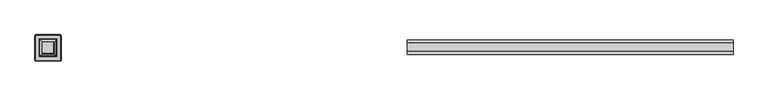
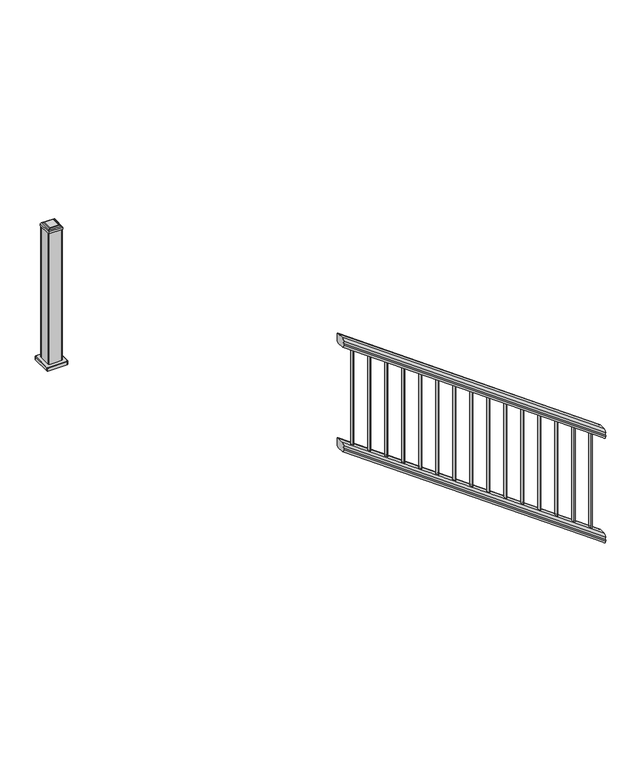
"""IFC4 building model written with IfcOpenShell, lengths in millimetres: railing geometry, NewTechWood - Westminister Gray."""

from ifc_helpers import new_model, si_unit, point, frame, frame_2d, origin, place, context, project, spatial, polyline, circle_curve, ellipse_curve, trimmed, segment, composite_curve, outline, extrude, faceted_brep, source, transform, mapped, element, save
from ifc_brep_helpers import plane_surface, cylinder_surface, revolved_surface, advanced_brep


def railing_3b4f4b14(model_context):
    return source(origin(), model_context, "Body", "SolidModel", [
        advanced_brep(
        [(-12132.4290808, 8279.6469817, 1489.4019141), (-12132.4290808, 8298.8469817, 1489.4019141), (-12132.4290808, 8298.8469817, 785.3019141), (-12132.4290808, 8279.6469817, 785.3019141)],
        [
            (0, 1, ellipse_curve(frame((-12132.4290808, 8289.2469817, 1489.4019141), z_axis=(0.5837829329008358, 0.0, 0.8119097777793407), x_axis=(-0.8119097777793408, 0.0, 0.5837829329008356)), 11.8239739, 9.6)),
            (1, 0, ellipse_curve(frame((-12132.4290808, 8289.2469817, 1489.4019141), z_axis=(0.5837829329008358, 0.0, 0.8119097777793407), x_axis=(-0.8119097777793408, 0.0, 0.5837829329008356)), 11.8239739, 9.6)),
            (2, 3, ellipse_curve(frame((-12132.4290808, 8289.2469817, 785.3019141), z_axis=(-0.5837829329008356, 0.0, -0.8119097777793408), x_axis=(-0.8119097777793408, 0.0, 0.5837829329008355)), 11.8239739, 9.6)),
            (3, 2, ellipse_curve(frame((-12132.4290808, 8289.2469817, 785.3019141), z_axis=(-0.5837829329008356, 0.0, -0.8119097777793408), x_axis=(-0.8119097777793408, 0.0, 0.5837829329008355)), 11.8239739, 9.6)),
            (1, 2),
            (3, 0),
        ],
        [
            plane_surface(frame((-13397.671938, 8539.2469817, 2399.142388), z_axis=(0.5837829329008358, 0.0, 0.8119097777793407), x_axis=(0.0, -1.0, 0.0))),
            plane_surface(frame((-11568.671938, 8539.2469817, 379.9467782), z_axis=(-0.5837829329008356, 0.0, -0.8119097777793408), x_axis=(0.0, -1.0, 0.0))),
            cylinder_surface(frame((-12132.4290808, 8289.2469817, 882.4945831), z_axis=(0.0, 0.0, 1.0), x_axis=(0.0, 1.0, 0.0)), 9.6),
        ],
        [
            (0, [[1, 2]]),
            (1, [[3, 4]]),
            (2, [[-2, 5, -4, 6]]),
            (2, [[-3, -5, -1, -6]]),
        ],
    ),
        advanced_brep(
        [(-12249.3433665, 8279.6469817, 1573.4661371), (-12249.3433665, 8298.8469817, 1573.4661371), (-12249.3433665, 8298.8469817, 869.3661371), (-12249.3433665, 8279.6469817, 869.3661371)],
        [
            (0, 1, ellipse_curve(frame((-12249.3433665, 8289.2469817, 1573.4661371), z_axis=(0.5837829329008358, 0.0, 0.8119097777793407), x_axis=(-0.8119097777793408, 0.0, 0.5837829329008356)), 11.8239739, 9.6)),
            (1, 0, ellipse_curve(frame((-12249.3433665, 8289.2469817, 1573.4661371), z_axis=(0.5837829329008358, 0.0, 0.8119097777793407), x_axis=(-0.8119097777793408, 0.0, 0.5837829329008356)), 11.8239739, 9.6)),
            (2, 3, ellipse_curve(frame((-12249.3433665, 8289.2469817, 869.3661371), z_axis=(-0.5837829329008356, 0.0, -0.8119097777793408), x_axis=(-0.8119097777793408, 0.0, 0.5837829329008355)), 11.8239739, 9.6)),
            (3, 2, ellipse_curve(frame((-12249.3433665, 8289.2469817, 869.3661371), z_axis=(-0.5837829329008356, 0.0, -0.8119097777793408), x_axis=(-0.8119097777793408, 0.0, 0.5837829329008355)), 11.8239739, 9.6)),
            (1, 2),
            (3, 0),
        ],
        [
            plane_surface(frame((-13397.671938, 8539.2469817, 2399.142388), z_axis=(0.5837829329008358, 0.0, 0.8119097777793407), x_axis=(0.0, -1.0, 0.0))),
            plane_surface(frame((-11568.671938, 8539.2469817, 379.9467782), z_axis=(-0.5837829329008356, 0.0, -0.8119097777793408), x_axis=(0.0, -1.0, 0.0))),
            cylinder_surface(frame((-12249.3433665, 8289.2469817, 882.4945831), z_axis=(0.0, 0.0, 1.0), x_axis=(0.0, 1.0, 0.0)), 9.6),
        ],
        [
            (0, [[1, 2]]),
            (1, [[3, 4]]),
            (2, [[-2, 5, -4, 6]]),
            (2, [[-3, -5, -1, -6]]),
        ],
    ),
        advanced_brep(
        [(-12366.2576522, 8279.6469817, 1657.5303601), (-12366.2576522, 8298.8469817, 1657.5303601), (-12366.2576522, 8298.8469817, 953.4303601), (-12366.2576522, 8279.6469817, 953.4303601)],
        [
            (0, 1, ellipse_curve(frame((-12366.2576522, 8289.2469817, 1657.5303601), z_axis=(0.5837829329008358, 0.0, 0.8119097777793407), x_axis=(-0.8119097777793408, 0.0, 0.5837829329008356)), 11.8239739, 9.6)),
            (1, 0, ellipse_curve(frame((-12366.2576522, 8289.2469817, 1657.5303601), z_axis=(0.5837829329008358, 0.0, 0.8119097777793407), x_axis=(-0.8119097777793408, 0.0, 0.5837829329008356)), 11.8239739, 9.6)),
            (2, 3, ellipse_curve(frame((-12366.2576522, 8289.2469817, 953.4303601), z_axis=(-0.5837829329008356, 0.0, -0.8119097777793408), x_axis=(-0.8119097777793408, 0.0, 0.5837829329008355)), 11.8239739, 9.6)),
            (3, 2, ellipse_curve(frame((-12366.2576522, 8289.2469817, 953.4303601), z_axis=(-0.5837829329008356, 0.0, -0.8119097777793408), x_axis=(-0.8119097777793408, 0.0, 0.5837829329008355)), 11.8239739, 9.6)),
            (1, 2),
            (3, 0),
        ],
        [
            plane_surface(frame((-13397.671938, 8539.2469817, 2399.142388), z_axis=(0.5837829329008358, 0.0, 0.8119097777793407), x_axis=(0.0, -1.0, 0.0))),
            plane_surface(frame((-11568.671938, 8539.2469817, 379.9467782), z_axis=(-0.5837829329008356, 0.0, -0.8119097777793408), x_axis=(0.0, -1.0, 0.0))),
            cylinder_surface(frame((-12366.2576522, 8289.2469817, 882.4945831), z_axis=(0.0, 0.0, 1.0), x_axis=(0.0, 1.0, 0.0)), 9.6),
        ],
        [
            (0, [[1, 2]]),
            (1, [[3, 4]]),
            (2, [[-2, 5, -4, 6]]),
            (2, [[-3, -5, -1, -6]]),
        ],
    ),
        advanced_brep(
        [(-12483.171938, 8279.6469817, 1741.5945831), (-12483.171938, 8298.8469817, 1741.5945831), (-12483.171938, 8298.8469817, 1037.4945831), (-12483.171938, 8279.6469817, 1037.4945831)],
        [
            (0, 1, ellipse_curve(frame((-12483.171938, 8289.2469817, 1741.5945831), z_axis=(0.5837829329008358, 0.0, 0.8119097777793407), x_axis=(-0.8119097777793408, 0.0, 0.5837829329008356)), 11.8239739, 9.6)),
            (1, 0, ellipse_curve(frame((-12483.171938, 8289.2469817, 1741.5945831), z_axis=(0.5837829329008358, 0.0, 0.8119097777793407), x_axis=(-0.8119097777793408, 0.0, 0.5837829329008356)), 11.8239739, 9.6)),
            (2, 3, ellipse_curve(frame((-12483.171938, 8289.2469817, 1037.4945831), z_axis=(-0.5837829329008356, 0.0, -0.8119097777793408), x_axis=(-0.8119097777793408, 0.0, 0.5837829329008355)), 11.8239739, 9.6)),
            (3, 2, ellipse_curve(frame((-12483.171938, 8289.2469817, 1037.4945831), z_axis=(-0.5837829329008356, 0.0, -0.8119097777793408), x_axis=(-0.8119097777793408, 0.0, 0.5837829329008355)), 11.8239739, 9.6)),
            (1, 2),
            (3, 0),
        ],
        [
            plane_surface(frame((-13397.671938, 8539.2469817, 2399.142388), z_axis=(0.5837829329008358, 0.0, 0.8119097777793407), x_axis=(0.0, -1.0, 0.0))),
            plane_surface(frame((-11568.671938, 8539.2469817, 379.9467782), z_axis=(-0.5837829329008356, 0.0, -0.8119097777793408), x_axis=(0.0, -1.0, 0.0))),
            cylinder_surface(frame((-12483.171938, 8289.2469817, 882.4945831), z_axis=(0.0, 0.0, 1.0), x_axis=(0.0, 1.0, 0.0)), 9.6),
        ],
        [
            (0, [[1, 2]]),
            (1, [[3, 4]]),
            (2, [[-2, 5, -4, 6]]),
            (2, [[-3, -5, -1, -6]]),
        ],
    ),
        advanced_brep(
        [(-12600.0862237, 8279.6469817, 1825.6588061), (-12600.0862237, 8298.8469817, 1825.6588061), (-12600.0862237, 8298.8469817, 1121.5588061), (-12600.0862237, 8279.6469817, 1121.5588061)],
        [
            (0, 1, ellipse_curve(frame((-12600.0862237, 8289.2469817, 1825.6588061), z_axis=(0.5837829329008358, 0.0, 0.8119097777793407), x_axis=(-0.8119097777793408, 0.0, 0.5837829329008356)), 11.8239739, 9.6)),
            (1, 0, ellipse_curve(frame((-12600.0862237, 8289.2469817, 1825.6588061), z_axis=(0.5837829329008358, 0.0, 0.8119097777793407), x_axis=(-0.8119097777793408, 0.0, 0.5837829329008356)), 11.8239739, 9.6)),
            (2, 3, ellipse_curve(frame((-12600.0862237, 8289.2469817, 1121.5588061), z_axis=(-0.5837829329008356, 0.0, -0.8119097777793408), x_axis=(-0.8119097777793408, 0.0, 0.5837829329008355)), 11.8239739, 9.6)),
            (3, 2, ellipse_curve(frame((-12600.0862237, 8289.2469817, 1121.5588061), z_axis=(-0.5837829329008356, 0.0, -0.8119097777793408), x_axis=(-0.8119097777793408, 0.0, 0.5837829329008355)), 11.8239739, 9.6)),
            (1, 2),
            (3, 0),
        ],
        [
            plane_surface(frame((-13397.671938, 8539.2469817, 2399.142388), z_axis=(0.5837829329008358, 0.0, 0.8119097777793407), x_axis=(0.0, -1.0, 0.0))),
            plane_surface(frame((-11568.671938, 8539.2469817, 379.9467782), z_axis=(-0.5837829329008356, 0.0, -0.8119097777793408), x_axis=(0.0, -1.0, 0.0))),
            cylinder_surface(frame((-12600.0862237, 8289.2469817, 882.4945831), z_axis=(0.0, 0.0, 1.0), x_axis=(0.0, 1.0, 0.0)), 9.6),
        ],
        [
            (0, [[1, 2]]),
            (1, [[3, 4]]),
            (2, [[-2, 5, -4, 6]]),
            (2, [[-3, -5, -1, -6]]),
        ],
    ),
        advanced_brep(
        [(-12717.0005094, 8279.6469817, 1909.7230291), (-12717.0005094, 8298.8469817, 1909.7230291), (-12717.0005094, 8298.8469817, 1205.6230291), (-12717.0005094, 8279.6469817, 1205.6230291)],
        [
            (0, 1, ellipse_curve(frame((-12717.0005094, 8289.2469817, 1909.7230291), z_axis=(0.5837829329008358, 0.0, 0.8119097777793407), x_axis=(-0.8119097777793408, 0.0, 0.5837829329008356)), 11.8239739, 9.6)),
            (1, 0, ellipse_curve(frame((-12717.0005094, 8289.2469817, 1909.7230291), z_axis=(0.5837829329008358, 0.0, 0.8119097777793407), x_axis=(-0.8119097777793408, 0.0, 0.5837829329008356)), 11.8239739, 9.6)),
            (2, 3, ellipse_curve(frame((-12717.0005094, 8289.2469817, 1205.6230291), z_axis=(-0.5837829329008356, 0.0, -0.8119097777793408), x_axis=(-0.8119097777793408, 0.0, 0.5837829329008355)), 11.8239739, 9.6)),
            (3, 2, ellipse_curve(frame((-12717.0005094, 8289.2469817, 1205.6230291), z_axis=(-0.5837829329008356, 0.0, -0.8119097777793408), x_axis=(-0.8119097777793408, 0.0, 0.5837829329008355)), 11.8239739, 9.6)),
            (1, 2),
            (3, 0),
        ],
        [
            plane_surface(frame((-13397.671938, 8539.2469817, 2399.142388), z_axis=(0.5837829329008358, 0.0, 0.8119097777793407), x_axis=(0.0, -1.0, 0.0))),
            plane_surface(frame((-11568.671938, 8539.2469817, 379.9467782), z_axis=(-0.5837829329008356, 0.0, -0.8119097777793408), x_axis=(0.0, -1.0, 0.0))),
            cylinder_surface(frame((-12717.0005094, 8289.2469817, 882.4945831), z_axis=(0.0, 0.0, 1.0), x_axis=(0.0, 1.0, 0.0)), 9.6),
        ],
        [
            (0, [[1, 2]]),
            (1, [[3, 4]]),
            (2, [[-2, 5, -4, 6]]),
            (2, [[-3, -5, -1, -6]]),
        ],
    ),
        advanced_brep(
        [(-12833.9147951, 8279.6469817, 1993.7872521), (-12833.9147951, 8298.8469817, 1993.7872521), (-12833.9147951, 8298.8469817, 1289.6872521), (-12833.9147951, 8279.6469817, 1289.6872521)],
        [
            (0, 1, ellipse_curve(frame((-12833.9147951, 8289.2469817, 1993.7872521), z_axis=(0.5837829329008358, 0.0, 0.8119097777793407), x_axis=(-0.8119097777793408, 0.0, 0.5837829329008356)), 11.8239739, 9.6)),
            (1, 0, ellipse_curve(frame((-12833.9147951, 8289.2469817, 1993.7872521), z_axis=(0.5837829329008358, 0.0, 0.8119097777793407), x_axis=(-0.8119097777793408, 0.0, 0.5837829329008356)), 11.8239739, 9.6)),
            (2, 3, ellipse_curve(frame((-12833.9147951, 8289.2469817, 1289.6872521), z_axis=(-0.5837829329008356, 0.0, -0.8119097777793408), x_axis=(-0.8119097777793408, 0.0, 0.5837829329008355)), 11.8239739, 9.6)),
            (3, 2, ellipse_curve(frame((-12833.9147951, 8289.2469817, 1289.6872521), z_axis=(-0.5837829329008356, 0.0, -0.8119097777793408), x_axis=(-0.8119097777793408, 0.0, 0.5837829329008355)), 11.8239739, 9.6)),
            (1, 2),
            (3, 0),
        ],
        [
            plane_surface(frame((-13397.671938, 8539.2469817, 2399.142388), z_axis=(0.5837829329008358, 0.0, 0.8119097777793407), x_axis=(0.0, -1.0, 0.0))),
            plane_surface(frame((-11568.671938, 8539.2469817, 379.9467782), z_axis=(-0.5837829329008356, 0.0, -0.8119097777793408), x_axis=(0.0, -1.0, 0.0))),
            cylinder_surface(frame((-12833.9147951, 8289.2469817, 882.4945831), z_axis=(0.0, 0.0, 1.0), x_axis=(0.0, 1.0, 0.0)), 9.6),
        ],
        [
            (0, [[1, 2]]),
            (1, [[3, 4]]),
            (2, [[-2, 5, -4, 6]]),
            (2, [[-3, -5, -1, -6]]),
        ],
    ),
        advanced_brep(
        [(-11664.771938, 8279.6469817, 1153.1450221), (-11664.771938, 8298.8469817, 1153.1450221), (-11664.771938, 8298.8469817, 449.0450221), (-11664.771938, 8279.6469817, 449.0450221)],
        [
            (0, 1, ellipse_curve(frame((-11664.771938, 8289.2469817, 1153.1450221), z_axis=(0.5837829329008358, 0.0, 0.8119097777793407), x_axis=(-0.8119097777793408, 0.0, 0.5837829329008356)), 11.8239739, 9.6)),
            (1, 0, ellipse_curve(frame((-11664.771938, 8289.2469817, 1153.1450221), z_axis=(0.5837829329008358, 0.0, 0.8119097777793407), x_axis=(-0.8119097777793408, 0.0, 0.5837829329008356)), 11.8239739, 9.6)),
            (2, 3, ellipse_curve(frame((-11664.771938, 8289.2469817, 449.0450221), z_axis=(-0.5837829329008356, 0.0, -0.8119097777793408), x_axis=(-0.8119097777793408, 0.0, 0.5837829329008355)), 11.8239739, 9.6)),
            (3, 2, ellipse_curve(frame((-11664.771938, 8289.2469817, 449.0450221), z_axis=(-0.5837829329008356, 0.0, -0.8119097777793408), x_axis=(-0.8119097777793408, 0.0, 0.5837829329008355)), 11.8239739, 9.6)),
            (1, 2),
            (3, 0),
        ],
        [
            plane_surface(frame((-13397.671938, 8539.2469817, 2399.142388), z_axis=(0.5837829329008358, 0.0, 0.8119097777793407), x_axis=(0.0, -1.0, 0.0))),
            plane_surface(frame((-11568.671938, 8539.2469817, 379.9467782), z_axis=(-0.5837829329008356, 0.0, -0.8119097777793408), x_axis=(0.0, -1.0, 0.0))),
            cylinder_surface(frame((-11664.771938, 8289.2469817, -433.085344), z_axis=(0.0, 0.0, 1.0), x_axis=(0.0, 1.0, 0.0)), 9.6),
        ],
        [
            (0, [[1, 2]]),
            (1, [[3, 4]]),
            (2, [[-2, 5, -4, 6]]),
            (2, [[-3, -5, -1, -6]]),
        ],
    ),
        advanced_brep(
        [(-11781.6862237, 8279.6469817, 1237.2092451), (-11781.6862237, 8298.8469817, 1237.2092451), (-11781.6862237, 8298.8469817, 533.1092451), (-11781.6862237, 8279.6469817, 533.1092451)],
        [
            (0, 1, ellipse_curve(frame((-11781.6862237, 8289.2469817, 1237.2092451), z_axis=(0.5837829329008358, 0.0, 0.8119097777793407), x_axis=(-0.8119097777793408, 0.0, 0.5837829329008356)), 11.8239739, 9.6)),
            (1, 0, ellipse_curve(frame((-11781.6862237, 8289.2469817, 1237.2092451), z_axis=(0.5837829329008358, 0.0, 0.8119097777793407), x_axis=(-0.8119097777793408, 0.0, 0.5837829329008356)), 11.8239739, 9.6)),
            (2, 3, ellipse_curve(frame((-11781.6862237, 8289.2469817, 533.1092451), z_axis=(-0.5837829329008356, 0.0, -0.8119097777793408), x_axis=(-0.8119097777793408, 0.0, 0.5837829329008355)), 11.8239739, 9.6)),
            (3, 2, ellipse_curve(frame((-11781.6862237, 8289.2469817, 533.1092451), z_axis=(-0.5837829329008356, 0.0, -0.8119097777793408), x_axis=(-0.8119097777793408, 0.0, 0.5837829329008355)), 11.8239739, 9.6)),
            (1, 2),
            (3, 0),
        ],
        [
            plane_surface(frame((-13397.671938, 8539.2469817, 2399.142388), z_axis=(0.5837829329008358, 0.0, 0.8119097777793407), x_axis=(0.0, -1.0, 0.0))),
            plane_surface(frame((-11568.671938, 8539.2469817, 379.9467782), z_axis=(-0.5837829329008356, 0.0, -0.8119097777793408), x_axis=(0.0, -1.0, 0.0))),
            cylinder_surface(frame((-11781.6862237, 8289.2469817, 882.4945831), z_axis=(0.0, 0.0, 1.0), x_axis=(0.0, 1.0, 0.0)), 9.6),
        ],
        [
            (0, [[1, 2]]),
            (1, [[3, 4]]),
            (2, [[-2, 5, -4, 6]]),
            (2, [[-3, -5, -1, -6]]),
        ],
    ),
        advanced_brep(
        [(-11898.6005094, 8279.6469817, 1321.2734681), (-11898.6005094, 8298.8469817, 1321.2734681), (-11898.6005094, 8298.8469817, 617.1734681), (-11898.6005094, 8279.6469817, 617.1734681)],
        [
            (0, 1, ellipse_curve(frame((-11898.6005094, 8289.2469817, 1321.2734681), z_axis=(0.5837829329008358, 0.0, 0.8119097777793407), x_axis=(-0.8119097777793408, 0.0, 0.5837829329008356)), 11.8239739, 9.6)),
            (1, 0, ellipse_curve(frame((-11898.6005094, 8289.2469817, 1321.2734681), z_axis=(0.5837829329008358, 0.0, 0.8119097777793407), x_axis=(-0.8119097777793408, 0.0, 0.5837829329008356)), 11.8239739, 9.6)),
            (2, 3, ellipse_curve(frame((-11898.6005094, 8289.2469817, 617.1734681), z_axis=(-0.5837829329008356, 0.0, -0.8119097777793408), x_axis=(-0.8119097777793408, 0.0, 0.5837829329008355)), 11.8239739, 9.6)),
            (3, 2, ellipse_curve(frame((-11898.6005094, 8289.2469817, 617.1734681), z_axis=(-0.5837829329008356, 0.0, -0.8119097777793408), x_axis=(-0.8119097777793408, 0.0, 0.5837829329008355)), 11.8239739, 9.6)),
            (1, 2),
            (3, 0),
        ],
        [
            plane_surface(frame((-13397.671938, 8539.2469817, 2399.142388), z_axis=(0.5837829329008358, 0.0, 0.8119097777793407), x_axis=(0.0, -1.0, 0.0))),
            plane_surface(frame((-11568.671938, 8539.2469817, 379.9467782), z_axis=(-0.5837829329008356, 0.0, -0.8119097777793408), x_axis=(0.0, -1.0, 0.0))),
            cylinder_surface(frame((-11898.6005094, 8289.2469817, 882.4945831), z_axis=(0.0, 0.0, 1.0), x_axis=(0.0, 1.0, 0.0)), 9.6),
        ],
        [
            (0, [[1, 2]]),
            (1, [[3, 4]]),
            (2, [[-2, 5, -4, 6]]),
            (2, [[-3, -5, -1, -6]]),
        ],
    ),
        advanced_brep(
        [(-12015.5147951, 8279.6469817, 1405.3376911), (-12015.5147951, 8298.8469817, 1405.3376911), (-12015.5147951, 8298.8469817, 701.2376911), (-12015.5147951, 8279.6469817, 701.2376911)],
        [
            (0, 1, ellipse_curve(frame((-12015.5147951, 8289.2469817, 1405.3376911), z_axis=(0.5837829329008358, 0.0, 0.8119097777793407), x_axis=(-0.8119097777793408, 0.0, 0.5837829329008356)), 11.8239739, 9.6)),
            (1, 0, ellipse_curve(frame((-12015.5147951, 8289.2469817, 1405.3376911), z_axis=(0.5837829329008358, 0.0, 0.8119097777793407), x_axis=(-0.8119097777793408, 0.0, 0.5837829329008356)), 11.8239739, 9.6)),
            (2, 3, ellipse_curve(frame((-12015.5147951, 8289.2469817, 701.2376911), z_axis=(-0.5837829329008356, 0.0, -0.8119097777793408), x_axis=(-0.8119097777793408, 0.0, 0.5837829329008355)), 11.8239739, 9.6)),
            (3, 2, ellipse_curve(frame((-12015.5147951, 8289.2469817, 701.2376911), z_axis=(-0.5837829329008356, 0.0, -0.8119097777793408), x_axis=(-0.8119097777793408, 0.0, 0.5837829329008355)), 11.8239739, 9.6)),
            (1, 2),
            (3, 0),
        ],
        [
            plane_surface(frame((-13397.671938, 8539.2469817, 2399.142388), z_axis=(0.5837829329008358, 0.0, 0.8119097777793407), x_axis=(0.0, -1.0, 0.0))),
            plane_surface(frame((-11568.671938, 8539.2469817, 379.9467782), z_axis=(-0.5837829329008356, 0.0, -0.8119097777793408), x_axis=(0.0, -1.0, 0.0))),
            cylinder_surface(frame((-12015.5147951, 8289.2469817, 882.4945831), z_axis=(0.0, 0.0, 1.0), x_axis=(0.0, 1.0, 0.0)), 9.6),
        ],
        [
            (0, [[1, 2]]),
            (1, [[3, 4]]),
            (2, [[-2, 5, -4, 6]]),
            (2, [[-3, -5, -1, -6]]),
        ],
    ),
        advanced_brep(
        [(-12950.8290808, 8279.6469817, 2077.8514751), (-12950.8290808, 8298.8469817, 2077.8514751), (-12950.8290808, 8298.8469817, 1373.7514751), (-12950.8290808, 8279.6469817, 1373.7514751)],
        [
            (0, 1, ellipse_curve(frame((-12950.8290808, 8289.2469817, 2077.8514751), z_axis=(0.5837829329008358, 0.0, 0.8119097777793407), x_axis=(-0.8119097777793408, 0.0, 0.5837829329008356)), 11.8239739, 9.6)),
            (1, 0, ellipse_curve(frame((-12950.8290808, 8289.2469817, 2077.8514751), z_axis=(0.5837829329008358, 0.0, 0.8119097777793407), x_axis=(-0.8119097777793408, 0.0, 0.5837829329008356)), 11.8239739, 9.6)),
            (2, 3, ellipse_curve(frame((-12950.8290808, 8289.2469817, 1373.7514751), z_axis=(-0.5837829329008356, 0.0, -0.8119097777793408), x_axis=(-0.8119097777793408, 0.0, 0.5837829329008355)), 11.8239739, 9.6)),
            (3, 2, ellipse_curve(frame((-12950.8290808, 8289.2469817, 1373.7514751), z_axis=(-0.5837829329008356, 0.0, -0.8119097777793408), x_axis=(-0.8119097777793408, 0.0, 0.5837829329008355)), 11.8239739, 9.6)),
            (1, 2),
            (3, 0),
        ],
        [
            plane_surface(frame((-13397.671938, 8539.2469817, 2399.142388), z_axis=(0.5837829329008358, 0.0, 0.8119097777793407), x_axis=(0.0, -1.0, 0.0))),
            plane_surface(frame((-11568.671938, 8539.2469817, 379.9467782), z_axis=(-0.5837829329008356, 0.0, -0.8119097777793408), x_axis=(0.0, -1.0, 0.0))),
            cylinder_surface(frame((-12950.8290808, 8289.2469817, 882.4945831), z_axis=(0.0, 0.0, 1.0), x_axis=(0.0, 1.0, 0.0)), 9.6),
        ],
        [
            (0, [[1, 2]]),
            (1, [[3, 4]]),
            (2, [[-2, 5, -4, 6]]),
            (2, [[-3, -5, -1, -6]]),
        ],
    ),
        advanced_brep(
        [(-13067.7433665, 8279.6469817, 2161.9156981), (-13067.7433665, 8298.8469817, 2161.9156981), (-13067.7433665, 8298.8469817, 1457.8156981), (-13067.7433665, 8279.6469817, 1457.8156981)],
        [
            (0, 1, ellipse_curve(frame((-13067.7433665, 8289.2469817, 2161.9156981), z_axis=(0.5837829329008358, 0.0, 0.8119097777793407), x_axis=(-0.8119097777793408, 0.0, 0.5837829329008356)), 11.8239739, 9.6)),
            (1, 0, ellipse_curve(frame((-13067.7433665, 8289.2469817, 2161.9156981), z_axis=(0.5837829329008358, 0.0, 0.8119097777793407), x_axis=(-0.8119097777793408, 0.0, 0.5837829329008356)), 11.8239739, 9.6)),
            (2, 3, ellipse_curve(frame((-13067.7433665, 8289.2469817, 1457.8156981), z_axis=(-0.5837829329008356, 0.0, -0.8119097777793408), x_axis=(-0.8119097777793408, 0.0, 0.5837829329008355)), 11.8239739, 9.6)),
            (3, 2, ellipse_curve(frame((-13067.7433665, 8289.2469817, 1457.8156981), z_axis=(-0.5837829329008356, 0.0, -0.8119097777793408), x_axis=(-0.8119097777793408, 0.0, 0.5837829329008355)), 11.8239739, 9.6)),
            (1, 2),
            (3, 0),
        ],
        [
            plane_surface(frame((-13397.671938, 8539.2469817, 2399.142388), z_axis=(0.5837829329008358, 0.0, 0.8119097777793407), x_axis=(0.0, -1.0, 0.0))),
            plane_surface(frame((-11568.671938, 8539.2469817, 379.9467782), z_axis=(-0.5837829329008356, 0.0, -0.8119097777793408), x_axis=(0.0, -1.0, 0.0))),
            cylinder_surface(frame((-13067.7433665, 8289.2469817, 882.4945831), z_axis=(0.0, 0.0, 1.0), x_axis=(0.0, 1.0, 0.0)), 9.6),
        ],
        [
            (0, [[1, 2]]),
            (1, [[3, 4]]),
            (2, [[-2, 5, -4, 6]]),
            (2, [[-3, -5, -1, -6]]),
        ],
    ),
        advanced_brep(
        [(-13184.6576522, 8279.6469817, 2245.9799211), (-13184.6576522, 8298.8469817, 2245.9799211), (-13184.6576522, 8298.8469817, 1541.8799211), (-13184.6576522, 8279.6469817, 1541.8799211)],
        [
            (0, 1, ellipse_curve(frame((-13184.6576522, 8289.2469817, 2245.9799211), z_axis=(0.5837829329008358, 0.0, 0.8119097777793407), x_axis=(-0.8119097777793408, 0.0, 0.5837829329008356)), 11.8239739, 9.6)),
            (1, 0, ellipse_curve(frame((-13184.6576522, 8289.2469817, 2245.9799211), z_axis=(0.5837829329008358, 0.0, 0.8119097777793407), x_axis=(-0.8119097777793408, 0.0, 0.5837829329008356)), 11.8239739, 9.6)),
            (2, 3, ellipse_curve(frame((-13184.6576522, 8289.2469817, 1541.8799211), z_axis=(-0.5837829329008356, 0.0, -0.8119097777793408), x_axis=(-0.8119097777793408, 0.0, 0.5837829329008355)), 11.8239739, 9.6)),
            (3, 2, ellipse_curve(frame((-13184.6576522, 8289.2469817, 1541.8799211), z_axis=(-0.5837829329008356, 0.0, -0.8119097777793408), x_axis=(-0.8119097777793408, 0.0, 0.5837829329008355)), 11.8239739, 9.6)),
            (1, 2),
            (3, 0),
        ],
        [
            plane_surface(frame((-13397.671938, 8539.2469817, 2399.142388), z_axis=(0.5837829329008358, 0.0, 0.8119097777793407), x_axis=(0.0, -1.0, 0.0))),
            plane_surface(frame((-11568.671938, 8539.2469817, 379.9467782), z_axis=(-0.5837829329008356, 0.0, -0.8119097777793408), x_axis=(0.0, -1.0, 0.0))),
            cylinder_surface(frame((-13184.6576522, 8289.2469817, 882.4945831), z_axis=(0.0, 0.0, 1.0), x_axis=(0.0, 1.0, 0.0)), 9.6),
        ],
        [
            (0, [[1, 2]]),
            (1, [[3, 4]]),
            (2, [[-2, 5, -4, 6]]),
            (2, [[-3, -5, -1, -6]]),
        ],
    ),
        advanced_brep(
        [(-13301.571938, 8279.6469817, 2330.0441441), (-13301.571938, 8298.8469817, 2330.0441441), (-13301.571938, 8298.8469817, 1625.9441441), (-13301.571938, 8279.6469817, 1625.9441441)],
        [
            (0, 1, ellipse_curve(frame((-13301.571938, 8289.2469817, 2330.0441441), z_axis=(0.5837829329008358, 0.0, 0.8119097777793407), x_axis=(-0.8119097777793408, 0.0, 0.5837829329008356)), 11.8239739, 9.6)),
            (1, 0, ellipse_curve(frame((-13301.571938, 8289.2469817, 2330.0441441), z_axis=(0.5837829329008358, 0.0, 0.8119097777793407), x_axis=(-0.8119097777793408, 0.0, 0.5837829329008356)), 11.8239739, 9.6)),
            (2, 3, ellipse_curve(frame((-13301.571938, 8289.2469817, 1625.9441441), z_axis=(-0.5837829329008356, 0.0, -0.8119097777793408), x_axis=(-0.8119097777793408, 0.0, 0.5837829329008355)), 11.8239739, 9.6)),
            (3, 2, ellipse_curve(frame((-13301.571938, 8289.2469817, 1625.9441441), z_axis=(-0.5837829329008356, 0.0, -0.8119097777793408), x_axis=(-0.8119097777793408, 0.0, 0.5837829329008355)), 11.8239739, 9.6)),
            (1, 2),
            (3, 0),
        ],
        [
            plane_surface(frame((-13397.671938, 8539.2469817, 2399.142388), z_axis=(0.5837829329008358, 0.0, 0.8119097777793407), x_axis=(0.0, -1.0, 0.0))),
            plane_surface(frame((-11568.671938, 8539.2469817, 379.9467782), z_axis=(-0.5837829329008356, 0.0, -0.8119097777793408), x_axis=(0.0, -1.0, 0.0))),
            cylinder_surface(frame((-13301.571938, 8289.2469817, 882.4945831), z_axis=(0.0, 0.0, 1.0), x_axis=(0.0, 1.0, 0.0)), 9.6),
        ],
        [
            (0, [[1, 2]]),
            (1, [[3, 4]]),
            (2, [[-2, 5, -4, 6]]),
            (2, [[-3, -5, -1, -6]]),
        ],
    ),
        advanced_brep(
        [(-11583.671938, 8311.4293699, 1088.3233394), (-11583.671938, 8328.1685291, 1108.9403582), (-11583.671938, 8328.1685291, 1120.7305298), (-11583.671938, 8328.6570478, 1137.4656588), (-11583.671938, 8313.0884425, 1156.6409487), (-11583.671938, 8265.4055209, 1156.6409487), (-11583.671938, 8249.8369156, 1137.4656588), (-11583.671938, 8250.3254343, 1120.7305298), (-11583.671938, 8250.3254343, 1108.9403582), (-11583.671938, 8267.0645935, 1088.3233394), (-13382.671938, 8267.0645935, 2381.8482175), (-13382.671938, 8250.3254343, 2402.4652363), (-13382.671938, 8250.3254343, 2414.2554079), (-13382.671938, 8249.8369156, 2430.9905369), (-13382.671938, 8265.4055209, 2450.1658267), (-13382.671938, 8313.0884425, 2450.1658267), (-13382.671938, 8328.6570478, 2430.9905369), (-13382.671938, 8328.1685291, 2414.2554079), (-13382.671938, 8328.1685291, 2402.4652363), (-13382.671938, 8311.4293699, 2381.8482175)],
        [
            (0, 1, ellipse_curve(frame((-11583.671938, 8311.4293699, 1108.9403582), z_axis=(1.0, 0.0, 0.0), x_axis=(0.0, 0.0, -1.0)), 20.6170188, 16.7391591)),
            (1, 2),
            (2, 3, ellipse_curve(frame((-11583.671938, 8341.0814856, 1128.5370869), z_axis=(-1.0, 0.0, 0.0), x_axis=(0.0, 0.0, 1.0)), 17.7170259, 14.3846265)),
            (3, 4, ellipse_curve(frame((-11583.671938, 8313.0884425, 1137.4656588), z_axis=(1.0, 0.0, 0.0), x_axis=(0.0, 0.0, -1.0)), 19.1752899, 15.5686053)),
            (4, 5),
            (5, 6, ellipse_curve(frame((-11583.671938, 8265.4055209, 1137.4656588), z_axis=(1.0, 0.0, 0.0), x_axis=(0.0, 0.0, -1.0)), 19.1752899, 15.5686053)),
            (6, 7, ellipse_curve(frame((-11583.671938, 8237.4124778, 1128.5370869), z_axis=(-1.0, 0.0, 0.0), x_axis=(0.0, 0.0, 1.0)), 17.7170259, 14.3846265)),
            (7, 8),
            (8, 9, ellipse_curve(frame((-11583.671938, 8267.0645935, 1108.9403582), z_axis=(1.0, 0.0, 0.0), x_axis=(0.0, 0.0, -1.0)), 20.6170188, 16.7391591)),
            (9, 0),
            (10, 11, ellipse_curve(frame((-13382.671938, 8267.0645935, 2402.4652363), z_axis=(-1.0, 0.0, 0.0), x_axis=(0.0, 0.0, -1.0)), 20.6170188, 16.7391591)),
            (11, 12),
            (12, 13, ellipse_curve(frame((-13382.671938, 8237.4124778, 2422.0619649), z_axis=(1.0, 0.0, 0.0), x_axis=(0.0, 0.0, 1.0)), 17.7170259, 14.3846265)),
            (13, 14, ellipse_curve(frame((-13382.671938, 8265.4055209, 2430.9905369), z_axis=(-1.0, 0.0, 0.0), x_axis=(0.0, 0.0, -1.0)), 19.1752899, 15.5686053)),
            (14, 15),
            (15, 16, ellipse_curve(frame((-13382.671938, 8313.0884425, 2430.9905369), z_axis=(-1.0, 0.0, 0.0), x_axis=(0.0, 0.0, -1.0)), 19.1752899, 15.5686053)),
            (16, 17, ellipse_curve(frame((-13382.671938, 8341.0814856, 2422.0619649), z_axis=(1.0, 0.0, 0.0), x_axis=(0.0, 0.0, 1.0)), 17.7170259, 14.3846265)),
            (17, 18),
            (18, 19, ellipse_curve(frame((-13382.671938, 8311.4293699, 2402.4652363), z_axis=(-1.0, 0.0, 0.0), x_axis=(0.0, 0.0, -1.0)), 20.6170188, 16.7391591)),
            (19, 10),
            (9, 10),
            (19, 0),
            (8, 11),
            (7, 12),
            (6, 13),
            (5, 14),
            (4, 15),
            (3, 16),
            (2, 17),
            (1, 18),
        ],
        [
            plane_surface(frame((-11583.671938, 8415.6017144, 1245.6485386), z_axis=(1.0, 0.0, 0.0), x_axis=(0.0, -1.0, 0.0))),
            plane_surface(frame((-13382.671938, 8415.6017144, 1607.7404643), z_axis=(-1.0, 0.0, 0.0), x_axis=(0.0, -1.0, 0.0))),
            plane_surface(frame((-11556.6717178, 8311.4293699, 1068.9095226), z_axis=(-0.5837829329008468, 0.0, -0.8119097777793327), x_axis=(-0.8119097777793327, 0.0, 0.5837829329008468))),
            cylinder_surface(frame((-11546.8996824, 8267.0645935, 1082.5002096), z_axis=(0.8119097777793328, 0.0, -0.5837829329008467), x_axis=(-0.5837829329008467, 0.0, -0.8119097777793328)), 16.7391591),
            plane_surface(frame((-11546.8996824, 8250.3254343, 1082.5002096), z_axis=(0.0, -1.0, 0.0), x_axis=(-0.8119097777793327, 0.0, 0.5837829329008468))),
            revolved_surface(polyline([(-13399.466936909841, 8237.4124778, 2416.4209529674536), (-11583.67193796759, 8237.4124778, 1110.820061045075)]), (-11537.6112432, 8237.4124778, 1095.4183239), (-0.8119097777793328, 0.0, 0.5837829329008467)),
            cylinder_surface(frame((-11533.3792869, 8265.4055209, 1101.3040161), z_axis=(0.8119097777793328, 0.0, -0.5837829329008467), x_axis=(-0.5837829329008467, 0.0, -0.8119097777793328)), 15.5686053),
            plane_surface(frame((-11524.2906008, 8265.4055209, 1113.944319), z_axis=(0.5837829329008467, 0.0, 0.8119097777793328), x_axis=(-0.8119097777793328, 0.0, 0.5837829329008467))),
            cylinder_surface(frame((-11533.3792869, 8313.0884425, 1101.3040161), z_axis=(0.8119097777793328, 0.0, -0.5837829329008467), x_axis=(-0.5837829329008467, 0.0, -0.8119097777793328)), 15.5686053),
            revolved_surface(polyline([(-13399.466936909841, 8341.0814856, 2416.4209529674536), (-11583.67193796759, 8341.0814856, 1110.820061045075)]), (-11537.6112432, 8341.0814856, 1095.4183239), (-0.8119097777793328, 0.0, 0.5837829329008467)),
            plane_surface(frame((-11541.3113878, 8328.1685291, 1090.2722611), z_axis=(0.0, 1.0, 0.0), x_axis=(-0.8119097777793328, 0.0, 0.5837829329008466))),
            cylinder_surface(frame((-11546.8996824, 8311.4293699, 1082.5002096), z_axis=(0.8119097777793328, 0.0, -0.5837829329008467), x_axis=(-0.5837829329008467, 0.0, -0.8119097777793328)), 16.7391591),
        ],
        [
            (0, [[1, 2, 3, 4, 5, 6, 7, 8, 9, 10]]),
            (1, [[11, 12, 13, 14, 15, 16, 17, 18, 19, 20]]),
            (2, [[-10, 21, -20, 22]]),
            (3, [[-9, 23, -11, -21]]),
            (4, [[-8, 24, -12, -23]]),
            (5, [[-7, 25, -13, -24]]),
            (6, [[-6, 26, -14, -25]]),
            (7, [[-5, 27, -15, -26]]),
            (8, [[-4, 28, -16, -27]]),
            (9, [[-3, 29, -17, -28]]),
            (10, [[-2, 30, -18, -29]]),
            (11, [[-19, -30, -1, -22]]),
        ],
    ),
        advanced_brep(
        [(-11583.671938, 8311.4293699, 329.3233394), (-11583.671938, 8328.1685291, 349.9403582), (-11583.671938, 8328.1685291, 361.7305298), (-11583.671938, 8328.6570478, 378.4656588), (-11583.671938, 8313.0884425, 397.6409487), (-11583.671938, 8265.4055209, 397.6409487), (-11583.671938, 8249.8369156, 378.4656588), (-11583.671938, 8250.3254343, 361.7305298), (-11583.671938, 8250.3254343, 349.9403582), (-11583.671938, 8267.0645935, 329.3233394), (-13382.671938, 8267.0645935, 1622.8482175), (-13382.671938, 8250.3254343, 1643.4652363), (-13382.671938, 8250.3254343, 1655.2554079), (-13382.671938, 8249.8369156, 1671.9905369), (-13382.671938, 8265.4055209, 1691.1658267), (-13382.671938, 8313.0884425, 1691.1658267), (-13382.671938, 8328.6570478, 1671.9905369), (-13382.671938, 8328.1685291, 1655.2554079), (-13382.671938, 8328.1685291, 1643.4652363), (-13382.671938, 8311.4293699, 1622.8482175)],
        [
            (0, 1, ellipse_curve(frame((-11583.671938, 8311.4293699, 349.9403582), z_axis=(1.0, 0.0, 0.0), x_axis=(0.0, 0.0, -1.0)), 20.6170188, 16.7391591)),
            (1, 2),
            (2, 3, ellipse_curve(frame((-11583.671938, 8341.0814856, 369.5370869), z_axis=(-1.0, 0.0, 0.0), x_axis=(0.0, 0.0, 1.0)), 17.7170259, 14.3846265)),
            (3, 4, ellipse_curve(frame((-11583.671938, 8313.0884425, 378.4656588), z_axis=(1.0, 0.0, 0.0), x_axis=(0.0, 0.0, -1.0)), 19.1752899, 15.5686053)),
            (4, 5),
            (5, 6, ellipse_curve(frame((-11583.671938, 8265.4055209, 378.4656588), z_axis=(1.0, 0.0, 0.0), x_axis=(0.0, 0.0, -1.0)), 19.1752899, 15.5686053)),
            (6, 7, ellipse_curve(frame((-11583.671938, 8237.4124778, 369.5370869), z_axis=(-1.0, 0.0, 0.0), x_axis=(0.0, 0.0, 1.0)), 17.7170259, 14.3846265)),
            (7, 8),
            (8, 9, ellipse_curve(frame((-11583.671938, 8267.0645935, 349.9403582), z_axis=(1.0, 0.0, 0.0), x_axis=(0.0, 0.0, -1.0)), 20.6170188, 16.7391591)),
            (9, 0),
            (10, 11, ellipse_curve(frame((-13382.671938, 8267.0645935, 1643.4652363), z_axis=(-1.0, 0.0, 0.0), x_axis=(0.0, 0.0, -1.0)), 20.6170188, 16.7391591)),
            (11, 12),
            (12, 13, ellipse_curve(frame((-13382.671938, 8237.4124778, 1663.0619649), z_axis=(1.0, 0.0, 0.0), x_axis=(0.0, 0.0, 1.0)), 17.7170259, 14.3846265)),
            (13, 14, ellipse_curve(frame((-13382.671938, 8265.4055209, 1671.9905369), z_axis=(-1.0, 0.0, 0.0), x_axis=(0.0, 0.0, -1.0)), 19.1752899, 15.5686053)),
            (14, 15),
            (15, 16, ellipse_curve(frame((-13382.671938, 8313.0884425, 1671.9905369), z_axis=(-1.0, 0.0, 0.0), x_axis=(0.0, 0.0, -1.0)), 19.1752899, 15.5686053)),
            (16, 17, ellipse_curve(frame((-13382.671938, 8341.0814856, 1663.0619649), z_axis=(1.0, 0.0, 0.0), x_axis=(0.0, 0.0, 1.0)), 17.7170259, 14.3846265)),
            (17, 18),
            (18, 19, ellipse_curve(frame((-13382.671938, 8311.4293699, 1643.4652363), z_axis=(-1.0, 0.0, 0.0), x_axis=(0.0, 0.0, -1.0)), 20.6170188, 16.7391591)),
            (19, 10),
            (9, 10),
            (19, 0),
            (8, 11),
            (7, 12),
            (6, 13),
            (5, 14),
            (4, 15),
            (3, 16),
            (2, 17),
            (1, 18),
        ],
        [
            plane_surface(frame((-11583.671938, 8415.6017144, 1245.6485386), z_axis=(1.0, 0.0, 0.0), x_axis=(0.0, -1.0, 0.0))),
            plane_surface(frame((-13382.671938, 8415.6017144, 1607.7404643), z_axis=(-1.0, 0.0, 0.0), x_axis=(0.0, -1.0, 0.0))),
            plane_surface(frame((-11559.1526372, 8311.4293699, 311.6933641), z_axis=(-0.5837829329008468, 0.0, -0.8119097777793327), x_axis=(-0.8119097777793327, 0.0, 0.5837829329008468))),
            cylinder_surface(frame((-11549.3806018, 8267.0645935, 325.2840511), z_axis=(0.8119097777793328, 0.0, -0.5837829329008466), x_axis=(-0.5837829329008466, 0.0, -0.8119097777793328)), 16.7391591),
            plane_surface(frame((-11549.3806018, 8250.3254343, 325.2840511), z_axis=(0.0, -1.0000000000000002, 0.0), x_axis=(-0.8119097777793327, 0.0, 0.5837829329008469))),
            revolved_surface(polyline([(-13399.466936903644, 8237.4124778, 1657.420952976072), (-11583.671937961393, 8237.4124778, 351.8200610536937)]), (-11540.0921625, 8237.4124778, 338.2021654), (-0.8119097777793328, 0.0, 0.5837829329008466)),
            cylinder_surface(frame((-11535.8602063, 8265.4055209, 344.0878576), z_axis=(0.8119097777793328, 0.0, -0.5837829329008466), x_axis=(-0.5837829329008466, 0.0, -0.8119097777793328)), 15.5686053),
            plane_surface(frame((-11526.7715202, 8265.4055209, 356.7281605), z_axis=(0.5837829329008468, 0.0, 0.8119097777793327), x_axis=(-0.8119097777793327, 0.0, 0.5837829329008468))),
            cylinder_surface(frame((-11535.8602063, 8313.0884425, 344.0878576), z_axis=(0.8119097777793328, 0.0, -0.5837829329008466), x_axis=(-0.5837829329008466, 0.0, -0.8119097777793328)), 15.5686053),
            revolved_surface(polyline([(-13399.466936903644, 8341.0814856, 1657.420952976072), (-11583.671937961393, 8341.0814856, 351.8200610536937)]), (-11540.0921625, 8341.0814856, 338.2021654), (-0.8119097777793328, 0.0, 0.5837829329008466)),
            plane_surface(frame((-11543.7923072, 8328.1685291, 333.0561026), z_axis=(0.0, 1.0, 0.0), x_axis=(-0.8119097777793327, 0.0, 0.5837829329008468))),
            cylinder_surface(frame((-11549.3806018, 8311.4293699, 325.2840511), z_axis=(0.8119097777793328, 0.0, -0.5837829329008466), x_axis=(-0.5837829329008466, 0.0, -0.8119097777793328)), 16.7391591),
        ],
        [
            (0, [[1, 2, 3, 4, 5, 6, 7, 8, 9, 10]]),
            (1, [[11, 12, 13, 14, 15, 16, 17, 18, 19, 20]]),
            (2, [[-10, 21, -20, 22]]),
            (3, [[-9, 23, -11, -21]]),
            (4, [[-8, 24, -12, -23]]),
            (5, [[-7, 25, -13, -24]]),
            (6, [[-6, 26, -14, -25]]),
            (7, [[-5, 27, -15, -26]]),
            (8, [[-4, 28, -16, -27]]),
            (9, [[-3, 29, -17, -28]]),
            (10, [[-2, 30, -18, -29]]),
            (11, [[-19, -30, -1, -22]]),
        ],
    ),
        advanced_brep(
        [(-15435.6939692, 8215.3872573, 2979.5108338), (-15301.0139692, 8215.3872573, 2979.5108338), (-15297.8544018, 8218.5468247, 2979.5108338), (-15297.8544018, 8353.2268247, 2979.5108338), (-15301.0139692, 8356.3863921, 2979.5108338), (-15435.6939692, 8356.3863921, 2979.5108338), (-15438.8535366, 8353.2268247, 2979.5108338), (-15438.8535366, 8218.5468247, 2979.5108338), (-15295.8539692, 8353.2268247, 2957.0108338), (-15295.8539692, 8218.5468247, 2957.0108338), (-15301.0139692, 8213.3868247, 2957.0108338), (-15435.6939692, 8213.3868247, 2957.0108338), (-15440.8539692, 8218.5468247, 2957.0108338), (-15440.8539692, 8353.2268247, 2957.0108338), (-15435.6939692, 8358.3868247, 2957.0108338), (-15301.0139692, 8358.3868247, 2957.0108338), (-15295.8539692, 8353.2268247, 2977.5104012), (-15295.8539692, 8218.5468247, 2977.5104012), (-15301.0139692, 8213.3868247, 2977.5104029), (-15435.6939692, 8213.3868247, 2977.5104029), (-15440.8539692, 8218.5468247, 2977.5104029), (-15440.8539692, 8353.2268247, 2977.5104012), (-15435.6939692, 8358.3868247, 2977.510403), (-15301.0139692, 8358.3868247, 2977.5104012)],
        [
            (0, 1),
            (1, 2, circle_curve(frame((-15301.0139692, 8218.5468247, 2979.5108338), z_axis=(0.0, 0.0, 1.0), x_axis=(1.0, 0.0, 0.0)), 3.1595674)),
            (2, 3),
            (3, 4, circle_curve(frame((-15301.0139692, 8353.2268247, 2979.5108338), z_axis=(0.0, 0.0, 1.0), x_axis=(0.0, 1.0, 0.0)), 3.1595674)),
            (4, 5),
            (5, 6, circle_curve(frame((-15435.6939692, 8353.2268247, 2979.5108338), z_axis=(0.0, 0.0, 1.0), x_axis=(-1.0, 0.0, 0.0)), 3.1595674)),
            (6, 7),
            (7, 0, circle_curve(frame((-15435.6939692, 8218.5468247, 2979.5108338), z_axis=(0.0, 0.0, 1.0), x_axis=(0.0, -1.0, 0.0)), 3.1595674)),
            (8, 9),
            (9, 10, circle_curve(frame((-15301.0139692, 8218.5468247, 2957.0108338), z_axis=(0.0, 0.0, -1.0), x_axis=(0.0, 1.0, 0.0)), 5.16)),
            (10, 11),
            (11, 12, circle_curve(frame((-15435.6939692, 8218.5468247, 2957.0108338), z_axis=(0.0, 0.0, -1.0), x_axis=(0.0, 1.0, 0.0)), 5.16)),
            (12, 13),
            (13, 14, circle_curve(frame((-15435.6939692, 8353.2268247, 2957.0108338), z_axis=(0.0, 0.0, -1.0), x_axis=(0.0, 1.0, 0.0)), 5.16)),
            (14, 15),
            (15, 8, circle_curve(frame((-15301.0139692, 8353.2268247, 2957.0108338), z_axis=(0.0, 0.0, -1.0), x_axis=(0.0, 1.0, 0.0)), 5.16)),
            (8, 16),
            (16, 17),
            (17, 9),
            (17, 18, circle_curve(frame((-15301.0139692, 8218.5468247, 2977.5104012), z_axis=(0.0, 0.0, -1.0), x_axis=(0.0, 1.0, 0.0)), 5.16)),
            (18, 10),
            (18, 19),
            (19, 11),
            (19, 20, circle_curve(frame((-15435.6939692, 8218.5468247, 2977.5104012), z_axis=(0.0, 0.0, -1.0), x_axis=(0.0, 1.0, 0.0)), 5.16)),
            (20, 12),
            (20, 21),
            (21, 13),
            (21, 22, circle_curve(frame((-15435.6939692, 8353.2268247, 2977.5104012), z_axis=(0.0, 0.0, -1.0), x_axis=(0.0, 1.0, 0.0)), 5.16)),
            (22, 14),
            (22, 23),
            (23, 15),
            (23, 16, circle_curve(frame((-15301.0139692, 8353.2268247, 2977.5104012), z_axis=(0.0, 0.0, -1.0), x_axis=(0.0, 1.0, 0.0)), 5.16)),
            (19, 0, circle_curve(frame((-15435.6939692, 8215.3872573, 2977.5104012), z_axis=(-1.0, 0.0, 0.0), x_axis=(0.0, 1.0, 0.0)), 2.0004326)),
            (7, 20, circle_curve(frame((-15438.8535366, 8218.5468247, 2977.5104012), z_axis=(0.0, -1.0, 0.0), x_axis=(1.0, 0.0, 0.0)), 2.0004326)),
            (6, 21, circle_curve(frame((-15438.8535366, 8353.2268247, 2977.5104012), z_axis=(0.0, -1.0, 0.0), x_axis=(1.0, 0.0, 0.0)), 2.0004326)),
            (5, 22, circle_curve(frame((-15435.6939692, 8356.3863921, 2977.5104012), z_axis=(-1.0, 0.0, 0.0), x_axis=(0.0, -1.0, 0.0)), 2.0004326)),
            (4, 23, circle_curve(frame((-15301.0139692, 8356.3863921, 2977.5104012), z_axis=(-1.0, 0.0, 0.0), x_axis=(0.0, -1.0, 0.0)), 2.0004326)),
            (3, 16, circle_curve(frame((-15297.8544018, 8353.2268247, 2977.5104012), z_axis=(0.0, 1.0, 0.0), x_axis=(-1.0, 0.0, 0.0)), 2.0004326)),
            (2, 17, circle_curve(frame((-15297.8544018, 8218.5468247, 2977.5104012), z_axis=(0.0, 1.0, 0.0), x_axis=(-1.0, 0.0, 0.0)), 2.0004326)),
            (1, 18, circle_curve(frame((-15301.0139692, 8215.3872573, 2977.5104012), z_axis=(1.0, 0.0, 0.0), x_axis=(0.0, 1.0, 0.0)), 2.0004326)),
        ],
        [
            plane_surface(frame((-15295.8539692, 8326.4508309, 2979.5108338), z_axis=(0.0, 0.0, 1.0), x_axis=(0.0, -1.0, 0.0))),
            plane_surface(frame((-15295.8539692, 8326.4508309, 2957.0108338), z_axis=(0.0, 0.0, -1.0), x_axis=(0.0, 1.0, 0.0))),
            plane_surface(frame((-15295.8539692, 8353.2268247, 2979.5108338), z_axis=(1.0, 0.0, 0.0), x_axis=(0.0, 0.0, -1.0))),
            cylinder_surface(frame((-15301.0139692, 8218.5468247, 2957.0108338), z_axis=(0.0, 0.0, 1.0), x_axis=(0.0, 1.0, 0.0)), 5.16),
            plane_surface(frame((-15301.0139692, 8213.3868247, 2979.5108338), z_axis=(0.0, -1.0, 0.0), x_axis=(0.0, 0.0, -1.0))),
            cylinder_surface(frame((-15435.6939692, 8218.5468247, 2957.0108338), z_axis=(0.0, 0.0, 1.0), x_axis=(0.0, 1.0, 0.0)), 5.16),
            plane_surface(frame((-15440.8539692, 8218.5468247, 2979.5108338), z_axis=(-1.0, 0.0, 0.0), x_axis=(0.0, 0.0, -1.0))),
            cylinder_surface(frame((-15435.6939692, 8353.2268247, 2957.0108338), z_axis=(0.0, 0.0, 1.0), x_axis=(0.0, 1.0, 0.0)), 5.16),
            plane_surface(frame((-15435.6939692, 8358.3868247, 2979.5108338), z_axis=(0.0, 1.0, 0.0), x_axis=(0.0, 0.0, -1.0))),
            cylinder_surface(frame((-15301.0139692, 8353.2268247, 2957.0108338), z_axis=(0.0, 0.0, 1.0), x_axis=(0.0, 1.0, 0.0)), 5.16),
            revolved_surface(trimmed(ellipse_curve(frame((-15435.6939692, 8215.3872573, 2977.5104012), z_axis=(-1.0, 0.0, 0.0), x_axis=(0.0, 1.0, 0.0)), 2.0004326, 2.0004326), [point((-15435.6939692, 8213.3868247, 2977.5104012))], [point((-15435.6939692, 8215.3872573, 2979.5108338))], True, "CARTESIAN"), (-15435.6939692, 8218.5468247, 2979.5108338), (0.0, 0.0, 1.0)),
            cylinder_surface(frame((-15438.8535366, 8218.5468247, 2977.5104012), z_axis=(0.0, 1.0, 0.0), x_axis=(1.0, 0.0, 0.0)), 2.0004326),
            revolved_surface(trimmed(ellipse_curve(frame((-15438.8535366, 8353.2268247, 2977.5104012), z_axis=(0.0, 1.0, 0.0), x_axis=(1.0, 0.0, 0.0)), 2.0004326, 2.0004326), [point((-15440.8539692, 8353.2268247, 2977.5104012))], [point((-15438.8535366, 8353.2268247, 2979.5108338))], True, "CARTESIAN"), (-15435.6939692, 8353.2268247, 2979.5108338), (0.0, 0.0, 1.0)),
            cylinder_surface(frame((-15435.6939692, 8356.3863921, 2977.5104012), z_axis=(1.0, 0.0, 0.0), x_axis=(0.0, -1.0, 0.0)), 2.0004326),
            revolved_surface(trimmed(ellipse_curve(frame((-15301.0139692, 8356.3863921, 2977.5104012), z_axis=(1.0, 0.0, 0.0), x_axis=(0.0, -1.0, 0.0)), 2.0004326, 2.0004326), [point((-15301.0139692, 8358.3868247, 2977.5104012))], [point((-15301.0139692, 8356.3863921, 2979.5108338))], True, "CARTESIAN"), (-15301.0139692, 8353.2268247, 2979.5108338), (0.0, 0.0, 1.0)),
            cylinder_surface(frame((-15297.8544018, 8353.2268247, 2977.5104012), z_axis=(0.0, -1.0, 0.0), x_axis=(-1.0, 0.0, 0.0)), 2.0004326),
            revolved_surface(trimmed(ellipse_curve(frame((-15297.8544018, 8218.5468247, 2977.5104012), z_axis=(0.0, -1.0, 0.0), x_axis=(-1.0, 0.0, 0.0)), 2.0004326, 2.0004326), [point((-15295.8539692, 8218.5468247, 2977.5104012))], [point((-15297.8544018, 8218.5468247, 2979.5108338))], True, "CARTESIAN"), (-15301.0139692, 8218.5468247, 2979.5108338), (0.0, 0.0, 1.0)),
            cylinder_surface(frame((-15301.0139692, 8215.3872573, 2977.5104012), z_axis=(-1.0, 0.0, 0.0), x_axis=(0.0, 1.0, 0.0)), 2.0004326),
        ],
        [
            (0, [[1, 2, 3, 4, 5, 6, 7, 8]]),
            (1, [[9, 10, 11, 12, 13, 14, 15, 16]]),
            (2, [[17, 18, 19, -9]]),
            (3, [[-19, 20, 21, -10]]),
            (4, [[-21, 22, 23, -11]]),
            (5, [[-23, 24, 25, -12]]),
            (6, [[-25, 26, 27, -13]]),
            (7, [[-27, 28, 29, -14]]),
            (8, [[-29, 30, 31, -15]]),
            (9, [[-31, 32, -17, -16]]),
            (10, [[-24, 33, -8, 34]]),
            (11, [[-7, 35, -26, -34]]),
            (12, [[-6, 36, -28, -35]]),
            (13, [[-5, 37, -30, -36]]),
            (14, [[-4, 38, -32, -37]]),
            (15, [[-3, 39, -18, -38]]),
            (16, [[-2, 40, -20, -39]]),
            (17, [[-22, -40, -1, -33]]),
        ],
    ),
        faceted_brep([(-15417.4039692, 8236.8368247, 3947.7805328), (-15417.4039692, 8334.9368247, 3947.7805328), (-15417.4039692, 8334.9368247, 3933.1505328), (-15417.4039692, 8236.8368247, 3933.1505328), (-15413.3712931, 8240.8695008, 3953.0933874), (-15413.3712931, 8330.9041486, 3953.0933874), (-15404.1461855, 8250.0946084, 3957.606733), (-15404.1461855, 8321.6790409, 3957.606733), (-15399.6494181, 8254.5913758, 3961.4108338), (-15399.6494181, 8317.1822735, 3961.4108338), (-15319.3039692, 8334.9368247, 3947.7805328), (-15319.3039692, 8334.9368247, 3933.1505328), (-15323.3366453, 8330.9041486, 3953.0933874), (-15332.561753, 8321.6790409, 3957.606733), (-15337.0585204, 8317.1822735, 3961.4108338), (-15319.3039692, 8236.8368247, 3947.7805328), (-15319.3039692, 8236.8368247, 3933.1505328), (-15323.3366453, 8240.8695008, 3953.0933874), (-15332.561753, 8250.0946084, 3957.606733), (-15337.0585204, 8254.5913758, 3961.4108338)], [[[0, 1, 2, 3]], [[4, 5, 1, 0]], [[6, 7, 5, 4]], [[8, 9, 7, 6]], [[1, 10, 11, 2]], [[5, 12, 10, 1]], [[7, 13, 12, 5]], [[9, 14, 13, 7]], [[10, 15, 16, 11]], [[12, 17, 15, 10]], [[13, 18, 17, 12]], [[14, 19, 18, 13]], [[15, 0, 3, 16]], [[17, 4, 0, 15]], [[18, 6, 4, 17]], [[19, 8, 6, 18]], [[9, 8, 19, 14]], [[3, 2, 11, 16]]]),
        extrude(outline(composite_curve([segment(polyline([(-15324.7639692, 8238.6868247), (-15411.9439692, 8238.6868247)]), True, "CONTINUOUS"), segment(trimmed(circle_curve(frame_2d((-15411.9439692, 8242.2968247)), 3.61), [point((-15411.9439692, 8238.6868247))], [point((-15415.5539692, 8242.2968247))], False, "CARTESIAN"), True, "CONTINUOUS"), segment(polyline([(-15415.5539692, 8242.2968247), (-15415.5539692, 8329.4768247)]), True, "CONTINUOUS"), segment(trimmed(circle_curve(frame_2d((-15411.9439692, 8329.4768247)), 3.61), [point((-15415.5539692, 8329.4768247))], [point((-15411.9439692, 8333.0868247))], False, "CARTESIAN"), True, "CONTINUOUS"), segment(polyline([(-15411.9439692, 8333.0868247), (-15324.7639692, 8333.0868247)]), True, "CONTINUOUS"), segment(trimmed(circle_curve(frame_2d((-15324.7639692, 8329.4768247)), 3.61), [point((-15324.7639692, 8333.0868247))], [point((-15321.1539692, 8329.4768247))], False, "CARTESIAN"), True, "CONTINUOUS"), segment(polyline([(-15321.1539692, 8329.4768247), (-15321.1539692, 8242.2968247)]), True, "CONTINUOUS"), segment(trimmed(circle_curve(frame_2d((-15324.7639692, 8242.2968247)), 3.61), [point((-15321.1539692, 8242.2968247))], [point((-15324.7639692, 8238.6868247))], False, "CARTESIAN"), True, "CONTINUOUS")], self_intersect=False)), frame((0.0, 0.0, 2979.5108338), z_axis=(0.0, 0.0, 1.0), x_axis=(1.0, 0.0, 0.0)), (0.0, 0.0, 1.0), 953.639699),
    ])


if __name__ == "__main__":
    model = new_model("IFC4")
    model_context = context("Model", 3, world=origin())
    ifc_project = project(units=[si_unit("LENGTHUNIT", "METRE", prefix="MILLI")], contexts=[model_context])
    site = spatial("IfcSite", under=ifc_project)
    building = spatial("IfcBuilding", under=site)
    placement = place(None, origin())
    railing_shape = railing_3b4f4b14(model_context)
    element("IfcRailing", 1, ObjectType="NewTechWood - Westminister Gray", at=placement, inside=building, context=model_context, shape_type="MappedRepresentation", body=[
        mapped(railing_shape, transform((0.0, 0.0, 0.0), x_axis=(1.0, 0.0, 0.0), y_axis=(0.0, 1.0, 0.0), z_axis=(0.0, 0.0, 1.0))),
    ])
    save(model, "model.ifc")
